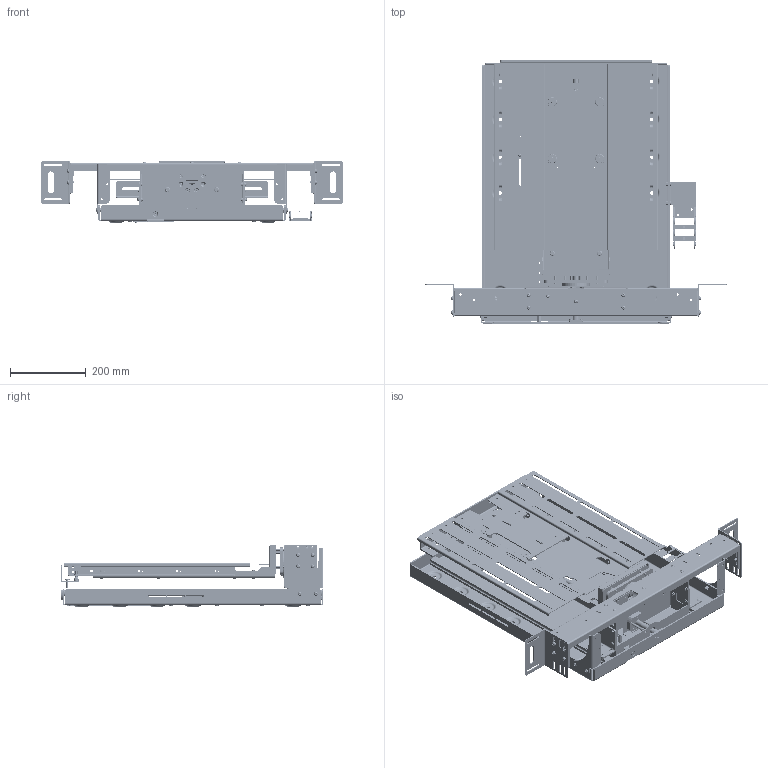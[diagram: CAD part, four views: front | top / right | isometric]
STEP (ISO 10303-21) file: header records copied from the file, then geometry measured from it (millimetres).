
FILE_DESCRIPTION (( 'STEP AP203' ), '1' );
FILE_NAME ('LSM-BE 2 - 3D CAD ISSUE03 IN.STEP', '2025-05-27T09:00:54', ( '' ), ( '' ), 'SwSTEP 2.0', 'SolidWorks 2023', '' );
FILE_SCHEMA (( 'CONFIG_CONTROL_DESIGN' ));
Length unit declared in the file: millimetre
Products named in the file (74): Washer ISO 7089 - 6BZP_Washer ISO 7089 - 6BZP; LSM21-415-BP BEAM_Default (LATEST VERSION); ISO 7380 - M4 x 8 - 8CBZP_ISO 7380 - M4 x 8 - 8CBZP; LSM21-408-BP UPRIGHT MIRROR; PEM FH-M4-12 X--N_PEM FH-M4-12 X--N; LSM21-005-BP LOWER PLATE_FOLDED; LSM V4-003 FOOT RIGHT; LSM V4-401 BACK PLATE PUNCH_H694; ISO 7380 - M5 x 10 --- 10N_ISO 7380 - M5 x 10 --- 10N; LSM V4-220 H-19 KH MOUNT DISC; ISO - 4161 - M6 - N_ISO - 4161 - M6 - N; LSM V4-251 LEAD SCREW BOTTOM BUSH; ISO - 4032 - M6 - D - NBZP_ISO - 4032 - M6 - D - NBZP; ISO 7380 - M5 x 12 - 12N_ISO 7380 - M5 x 12 - 12N; ISO 7380 - M4 x 10 - 10N_ISO 7380 - M4 x 10 - 10N; KH-204 CAM BOSS; ISO - 4032 - M4 - D - N_ISO - 4032 - M4 - D - N; ISO 4762 M6 x 40 - 24N_ISO 4762 M6 x 40 - 24N; KH-003 CAM LEVER; Washer ISO 7091 - 6_Washer ISO 7091 - 6; Hexagon Flange Nut ISO - 4161 - M6 - N_Hexagon Flange Nut ISO - 4161 - M6 - N; KH-206 SCREEN MOUNT BOSS; ISO 7380 - M5 x 12 --- 12N_ISO 7380 - M5 x 12 --- 12N; ISO 4762 M5 x 8 --- 8N_ISO 4762 M5 x 8 --- 8N; LSM21-410-BP BEAM FRONT; KH-205 BOSS SPACER_15MM; Washer ISO 7089 - 6_Washer ISO 7089 - 6; ISO 10642 - M6 x 30 - 30C_ISO 10642 - M6 x 30 - 30C; ISO 7380 - M6 x 16 - 16N_ISO 7380 - M6 x 16 - 16N; LSM V4-245 TOP MOTOR BOSS; LSM21-201-MS COVER BOSS_DEFAULT; LSM21-403-BP SWIVEL COVER_FOLDED; LSM21-409-BP MOUNT DISC PLATE; LSM V4-211 LEAD SCREW_H694; 0033-013 60mm TRACK LINK_Z14.4.028.0; ISO - 4032 - M5 - D - N_ISO - 4032 - M5 - D - N; ISO 7380 - M6 x 12 --- 12N_ISO 7380 - M6 x 12 --- 12N; ISO 10642 - M6 x 16 - 16C_ISO 10642 - M6 x 16 - 16C; ISO 7040-M6-NBZP_ISO 7040-M6-NBZP; LSM21-406-BP BE TOP BRACKET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
Assembly tree (198 placements, depth 2):
  LSM-BE 2 - 3D CAD ISSUE03 IN
    0033-014 60mm TRACK END M_Z14.4.1PZ
    M6 Hex Post_20
    0033-013 60mm TRACK LINK_Z14.4.028.0  x2
    M4X20mm HEX SPACER  x2
    LSM V4-401 BACK PLATE PUNCH_H694
    LSM21-403-BP SWIVEL COVER_FOLDED
    LSM21-404-BP LIFT MOUNT_480 
    LSM21-406-BP BE TOP BRACKET
    LSM21-407-BP UPRIGHT
    LSM21-408-BP UPRIGHT MIRROR
    LSM21-409-BP MOUNT DISC PLATE
    LSM21-410-BP BEAM FRONT
    LSM21-415-BP BEAM_Default (LATEST VERSION)
    LSM V4-002 FOOT LEFT
    LSM21-004-BP UPRIGHT FOOT
    LSM21-005-BP LOWER PLATE_FOLDED
    LSM V4-006 BLOCK BRACKET
    LSM V4-007 BLOCK BRACKET MIRROR
    LSM V4-010 TOP SWITCH STOP
    LSM Igus Bracket_V2
    LSM V4-057 BLANK SWITCH CARRIER  x2
    LSM21-201-MS COVER BOSS_DEFAULT  x2
    LSM V4-202 LINEAR GUIDE_H694  x2
    LSM V4-211 LEAD SCREW_H694
    LSM V4-220 H-19 KH MOUNT DISC
    LSM V4-245 TOP MOTOR BOSS
    LSM V4-251 LEAD SCREW BOTTOM BUSH
    LSM V4-003 FOOT RIGHT
    LSM V4-252 LEAD SCREW TOP BUSH
    KH-001 MOUNT PLATE_V400
    KH-002 MOUNT LOCK PLATE_Cam
    KH-003 CAM LEVER
    KH-204 CAM BOSS
    KH-205 BOSS SPACER_15MM  x4
    KH-206 SCREEN MOUNT BOSS  x4
    Hexagon Flange Nut ISO - 4161 - M6 - N_Hexagon Flange Nut ISO - 4161 - M6 - N  x4
    ISO 10642 - M5 x 8 --- 8N_ISO 10642 - M5 x 8 --- 8N  x2
    ISO 4762 M5 x 8 --- 8N_ISO 4762 M5 x 8 --- 8N  x2
    ISO 7380 - M5 x 10 --- 10N_ISO 7380 - M5 x 10 --- 10N  x2
    ISO 7380 - M6 x 10 --- 10N_ISO 7380 - M6 x 10 --- 10N  x12
    ISO 4017 - M6 x 16-N_ISO 4017 - M6 x 16-N
    ISO 10642 - M6 x 12 --- 12N_ISO 10642 - M6 x 12 --- 12N
    Hexagon Nut ISO - 4033 - M6 - D - N_Hexagon Nut ISO - 4033 - M6 - D - N
    ISO 7380 - M6 x 12 --- 12N_ISO 7380 - M6 x 12 --- 12N  x11
    ISO 7380 - M5 x 12 --- 12N_ISO 7380 - M5 x 12 --- 12N  x8
    ISO 4762 M5 x 50 - 22N_ISO 4762 M5 x 50 - 22N  x2
    ISO 10642 - M4 x 12 - 12C_ISO 10642 - M4 x 12 - 12C  x3
    ISO 7380 - M5 x 12 - 12N_ISO 7380 - M5 x 12 - 12N  x3
    Washer ISO 7089 - 5_Washer ISO 7089 - 5  x2
    ISO - 4032 - M5 - D - N_ISO - 4032 - M5 - D - N  x2
    ISO 7380 - M6 x 16 - 16N_ISO 7380 - M6 x 16 - 16N  x4
    Washer ISO 7089 - 6_Washer ISO 7089 - 6  x12
    ISO - 4034 - M6 - N_ISO - 4034 - M6 - N  x4
    ISO - 4161 - M6 - N_ISO - 4161 - M6 - N  x4
    ISO 7380 - M6 x 20 - 20N_ISO 7380 - M6 x 20 - 20N  x4
    ISO 10642 - M6 x 30 - 30C_ISO 10642 - M6 x 30 - 30C  x2
    ISO - 4032 - M4 - D - N_ISO - 4032 - M4 - D - N  x2
    Washer ISO 7089 - 4_Washer ISO 7089 - 4  x2
    ISO 7380 - M4 x 10 - 10N_ISO 7380 - M4 x 10 - 10N  x2
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Bounding box: 795 x 694 x 166 mm (x, y, z)
Volume: 4202480.4 mm3; surface area: 2520528.1 mm2
Topology: 198 solids, 198 shells, 4961 faces, 11742 edges, 7347 vertices
Faces by surface type: plane 2742, cylinder 1251, cone 650, torus 182, bspline 74, sphere 62
Full cylindrical faces by diameter (mm): 3 x8, 3.3 x6, 3.5 x2, 4 x15, 4.2 x10, 4.3 x4, 4.5 x2, 4.65 x10, 5 x98, 5.2 x2, 5.3 x4, 5.415 x2, 5.5 x6, 5.55 x44, 6 x90, 6.2 x65, 6.3 x8, 6.4 x33, 6.5 x8, 6.6 x12, 6.8 x6, 7 x2, 7.1 x3, 7.143 x2, 7.2 x1, 7.53 x3, 7.6 x5, 8.5 x4, 9 x2, 9.1 x10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
Entity records: 96897 total; most frequent: CARTESIAN_POINT 19486, DIRECTION 14089, ORIENTED_EDGE 12480, EDGE_CURVE 6240, AXIS2_PLACEMENT_3D 5296, VERTEX_POINT 4269, EDGE_LOOP 4153, VECTOR 3497
